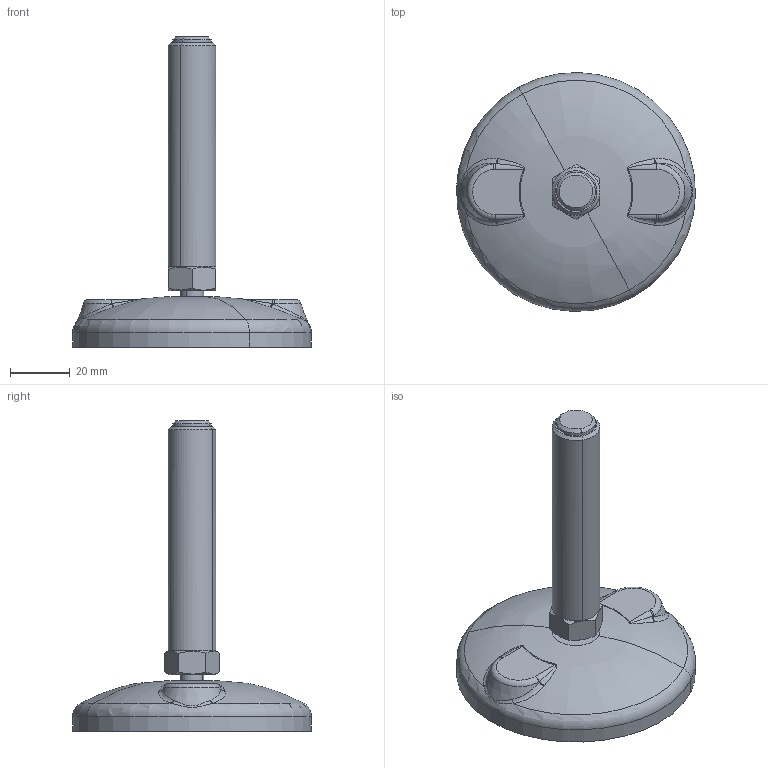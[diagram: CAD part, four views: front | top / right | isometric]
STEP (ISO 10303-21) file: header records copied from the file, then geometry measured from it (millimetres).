
FILE_DESCRIPTION(('STEP AP214'),'1');
FILE_NAME('P95401H_01','2017-01-13T08:04:07',('dentellad'),(' '),'Spatial InterOp 3D',' ',' ');
FILE_SCHEMA(('automotive_design'));
Length unit declared in the file: millimetre
Products named in the file (2): 1; 2
Bounding box: 79.98 x 79.98 x 104 mm (x, y, z)
Volume: 51286.3 mm3; surface area: 33116.3 mm2
Topology: 2 solids, 4 shells, 643 faces, 1830 edges, 1201 vertices
Faces by surface type: plane 494, torus 52, cylinder 30, revolution 21, sphere 18, bspline 14, cone 14
Entity records: 39553 total; most frequent: CARTESIAN_POINT 10639, ORIENTED_EDGE 3644, STYLED_ITEM 2455, PRESENTATION_STYLE_ASSIGNMENT 2455, COLOUR_RGB 2455, DIRECTION 2180, EDGE_CURVE 1822, CURVE_STYLE 1810
